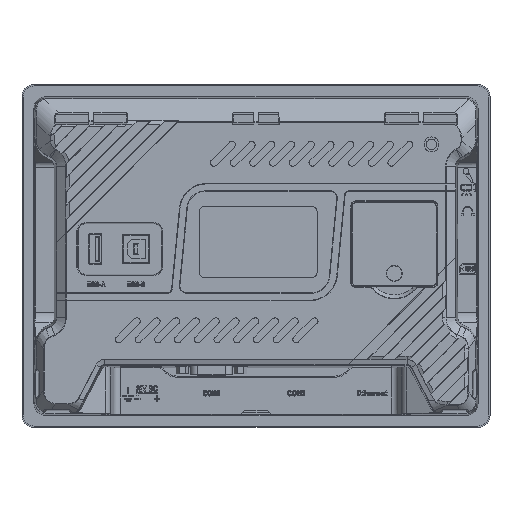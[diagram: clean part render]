
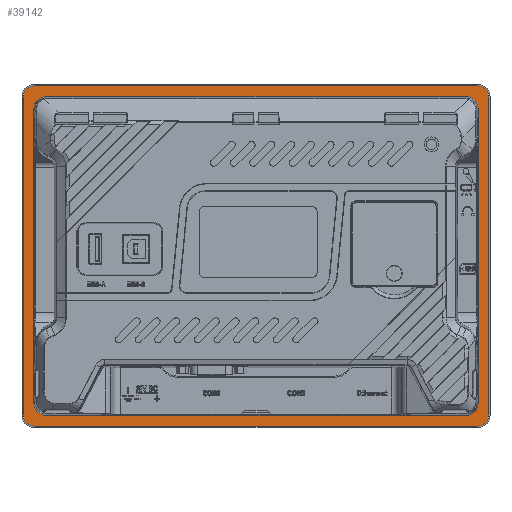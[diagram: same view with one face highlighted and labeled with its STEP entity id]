
A CAD part, front view. The second image highlights one B-rep face of the part: STEP entity #39142.
In plain terms, the highlighted planar face has unit normal (0, -1, 0).
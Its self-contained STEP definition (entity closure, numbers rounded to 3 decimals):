
#1954=DIRECTION('',(-1.,0.,0.));
#1955=VECTOR('',#1954,180.958);
#1956=CARTESIAN_POINT('',(90.476,-1.,
-68.467));
#1957=LINE('',#1956,#1955);
#2132=CARTESIAN_POINT('',(95.3,-1.,68.3));
#2133=DIRECTION('',(0.,1.,0.));
#2134=DIRECTION('',(0.,0.,1.));
#2135=AXIS2_PLACEMENT_3D('',#2132,#2133,#2134);
#2137=CARTESIAN_POINT('',(95.3,-1.,-68.3));
#2138=DIRECTION('',(0.,1.,0.));
#2139=DIRECTION('',(1.,0.,0.));
#2140=AXIS2_PLACEMENT_3D('',#2137,#2138,#2139);
#2142=CARTESIAN_POINT('',(-95.3,-1.,-68.3));
#2143=DIRECTION('',(0.,1.,0.));
#2144=DIRECTION('',(0.,0.,-1.));
#2145=AXIS2_PLACEMENT_3D('',#2142,#2143,#2144);
#2147=CARTESIAN_POINT('',(-95.3,-1.,68.3));
#2148=DIRECTION('',(0.,1.,0.));
#2149=DIRECTION('',(-1.,0.,0.));
#2150=AXIS2_PLACEMENT_3D('',#2147,#2148,#2149);
#2152=CARTESIAN_POINT('',(90.47,-1.,-63.47));
#2153=DIRECTION('',(0.,-1.,0.));
#2154=DIRECTION('',(0.001,0.,-1.));
#2155=AXIS2_PLACEMENT_3D('',#2152,#2153,#2154);
#2157=CARTESIAN_POINT('',(90.47,-1.,63.47));
#2158=DIRECTION('',(0.,-1.,0.));
#2159=DIRECTION('',(1.,0.,0.001));
#2160=AXIS2_PLACEMENT_3D('',#2157,#2158,#2159);
#2162=CARTESIAN_POINT('',(-90.475,-1.,
68.467));
#2163=CARTESIAN_POINT('',(-90.923,-1.,
68.467));
#2164=CARTESIAN_POINT('',(-91.785,-1.,
68.354));
#2165=CARTESIAN_POINT('',(-93.005,-1.,
67.846));
#2166=CARTESIAN_POINT('',(-94.046,-1.,
67.046));
#2167=CARTESIAN_POINT('',(-94.846,-1.,
66.004));
#2168=CARTESIAN_POINT('',(-95.353,-1.,
64.786));
#2169=CARTESIAN_POINT('',(-95.467,-1.,
63.92));
#2170=CARTESIAN_POINT('',(-95.468,-1.,
63.482));
#2172=CARTESIAN_POINT('',(-95.468,-1.,
-63.482));
#2173=CARTESIAN_POINT('',(-95.467,-1.,
-63.92));
#2174=CARTESIAN_POINT('',(-95.353,-1.,
-64.787));
#2175=CARTESIAN_POINT('',(-94.846,-1.,
-66.005));
#2176=CARTESIAN_POINT('',(-94.045,-1.,
-67.046));
#2177=CARTESIAN_POINT('',(-93.003,-1.,
-67.847));
#2178=CARTESIAN_POINT('',(-91.785,-1.,
-68.354));
#2179=CARTESIAN_POINT('',(-90.917,-1.,
-68.466));
#2180=CARTESIAN_POINT('',(-90.482,-1.,
-68.467));
#4558=DIRECTION('',(-1.,0.,0.));
#4559=VECTOR('',#4558,190.6);
#4560=CARTESIAN_POINT('',(95.3,-1.,73.1));
#4561=LINE('',#4560,#4559);
#4574=DIRECTION('',(0.,0.,-1.));
#4575=VECTOR('',#4574,136.6);
#4576=CARTESIAN_POINT('',(-100.1,-1.,68.3));
#4577=LINE('',#4576,#4575);
#4590=DIRECTION('',(1.,0.,0.));
#4591=VECTOR('',#4590,190.6);
#4592=CARTESIAN_POINT('',(-95.3,-1.,-73.1));
#4593=LINE('',#4592,#4591);
#4606=DIRECTION('',(0.,0.,1.));
#4607=VECTOR('',#4606,136.6);
#4608=CARTESIAN_POINT('',(100.1,-1.,-68.3));
#4609=LINE('',#4608,#4607);
#4660=DIRECTION('',(0.,0.,-1.));
#4661=VECTOR('',#4660,126.952);
#4662=CARTESIAN_POINT('',(95.467,-1.,
63.476));
#4663=LINE('',#4662,#4661);
#11087=DIRECTION('',(0.,0.,1.));
#11088=VECTOR('',#11087,126.963);
#11089=CARTESIAN_POINT('',(-95.468,-1.,
-63.482));
#11090=LINE('',#11089,#11088);
#14527=DIRECTION('',(1.,0.,0.));
#14528=VECTOR('',#14527,180.951);
#14529=CARTESIAN_POINT('',(-90.475,-1.,
68.467));
#14530=LINE('',#14529,#14528);
#30609=CARTESIAN_POINT('',(90.476,-1.,
-68.467));
#30610=CARTESIAN_POINT('',(-90.482,-1.,
-68.467));
#30611=VERTEX_POINT('',#30609);
#30612=VERTEX_POINT('',#30610);
#30669=CARTESIAN_POINT('',(95.3,-1.,73.1));
#30670=CARTESIAN_POINT('',(100.1,-1.,68.3));
#30671=VERTEX_POINT('',#30669);
#30672=VERTEX_POINT('',#30670);
#30673=CARTESIAN_POINT('',(100.1,-1.,-68.3));
#30674=VERTEX_POINT('',#30673);
#30675=CARTESIAN_POINT('',(95.3,-1.,-73.1));
#30676=VERTEX_POINT('',#30675);
#30677=CARTESIAN_POINT('',(-95.3,-1.,-73.1));
#30678=VERTEX_POINT('',#30677);
#30679=CARTESIAN_POINT('',(-100.1,-1.,-68.3));
#30680=VERTEX_POINT('',#30679);
#30681=CARTESIAN_POINT('',(-100.1,-1.,68.3));
#30682=VERTEX_POINT('',#30681);
#30683=CARTESIAN_POINT('',(-95.3,-1.,73.1));
#30684=VERTEX_POINT('',#30683);
#30685=CARTESIAN_POINT('',(95.47,-1.,
-63.477));
#30686=VERTEX_POINT('',#30685);
#30687=CARTESIAN_POINT('',(95.467,-1.,
63.476));
#30688=VERTEX_POINT('',#30687);
#30689=CARTESIAN_POINT('',(90.477,-1.,
68.47));
#30690=VERTEX_POINT('',#30689);
#30691=CARTESIAN_POINT('',(-90.475,-1.,
68.467));
#30692=VERTEX_POINT('',#30691);
#30693=VERTEX_POINT('',#2170);
#30694=CARTESIAN_POINT('',(-95.468,-1.,
-63.482));
#30695=VERTEX_POINT('',#30694);
#39102=CARTESIAN_POINT('',(0.,-1.,0.));
#39103=DIRECTION('',(0.,-1.,0.));
#39104=DIRECTION('',(-1.,0.,0.));
#39105=AXIS2_PLACEMENT_3D('',#39102,#39103,#39104);
#39106=PLANE('',#39105);
#39108=ORIENTED_EDGE('',*,*,#39107,.T.);
#39110=ORIENTED_EDGE('',*,*,#39109,.F.);
#39112=ORIENTED_EDGE('',*,*,#39111,.T.);
#39114=ORIENTED_EDGE('',*,*,#39113,.F.);
#39116=ORIENTED_EDGE('',*,*,#39115,.T.);
#39118=ORIENTED_EDGE('',*,*,#39117,.F.);
#39120=ORIENTED_EDGE('',*,*,#39119,.T.);
#39122=ORIENTED_EDGE('',*,*,#39121,.F.);
#39123=EDGE_LOOP('',(#39108,#39110,#39112,#39114,#39116,#39118,#39120,#39122));
#39124=FACE_OUTER_BOUND('',#39123,.F.);
#39126=ORIENTED_EDGE('',*,*,#39125,.T.);
#39128=ORIENTED_EDGE('',*,*,#39127,.F.);
#39130=ORIENTED_EDGE('',*,*,#39129,.T.);
#39132=ORIENTED_EDGE('',*,*,#39131,.F.);
#39134=ORIENTED_EDGE('',*,*,#39133,.T.);
#39136=ORIENTED_EDGE('',*,*,#39135,.F.);
#39138=ORIENTED_EDGE('',*,*,#39137,.T.);
#39139=ORIENTED_EDGE('',*,*,#39007,.F.);
#39140=EDGE_LOOP('',(#39126,#39128,#39130,#39132,#39134,#39136,#39138,#39139));
#39141=FACE_BOUND('',#39140,.F.);
#39142=ADVANCED_FACE('',(#39124,#39141),#39106,.T.);
#2136=CIRCLE('',#2135,4.8);
#2141=CIRCLE('',#2140,4.8);
#2146=CIRCLE('',#2145,4.8);
#2151=CIRCLE('',#2150,4.8);
#2156=CIRCLE('',#2155,5.);
#2161=CIRCLE('',#2160,5.);
#2171=B_SPLINE_CURVE_WITH_KNOTS('',3,(#2162,#2163,#2164,#2165,#2166,#2167,#2168,
#2169,#2170),.UNSPECIFIED.,.F.,.F.,(4,1,1,1,1,1,4),(0.,0.167,
0.333,0.5,0.667,0.833,1.),
.UNSPECIFIED.);
#2181=B_SPLINE_CURVE_WITH_KNOTS('',3,(#2172,#2173,#2174,#2175,#2176,#2177,#2178,
#2179,#2180),.UNSPECIFIED.,.F.,.F.,(4,1,1,1,1,1,4),(0.,0.167,
0.333,0.5,0.667,0.833,1.),
.UNSPECIFIED.);
#39007=EDGE_CURVE('',#30611,#30612,#1957,.T.);
#39107=EDGE_CURVE('',#30671,#30672,#2136,.T.);
#39109=EDGE_CURVE('',#30674,#30672,#4609,.T.);
#39111=EDGE_CURVE('',#30674,#30676,#2141,.T.);
#39113=EDGE_CURVE('',#30678,#30676,#4593,.T.);
#39115=EDGE_CURVE('',#30678,#30680,#2146,.T.);
#39117=EDGE_CURVE('',#30682,#30680,#4577,.T.);
#39119=EDGE_CURVE('',#30682,#30684,#2151,.T.);
#39121=EDGE_CURVE('',#30671,#30684,#4561,.T.);
#39125=EDGE_CURVE('',#30611,#30686,#2156,.T.);
#39127=EDGE_CURVE('',#30688,#30686,#4663,.T.);
#39129=EDGE_CURVE('',#30688,#30690,#2161,.T.);
#39131=EDGE_CURVE('',#30692,#30690,#14530,.T.);
#39133=EDGE_CURVE('',#30692,#30693,#2171,.T.);
#39135=EDGE_CURVE('',#30695,#30693,#11090,.T.);
#39137=EDGE_CURVE('',#30695,#30612,#2181,.T.);
